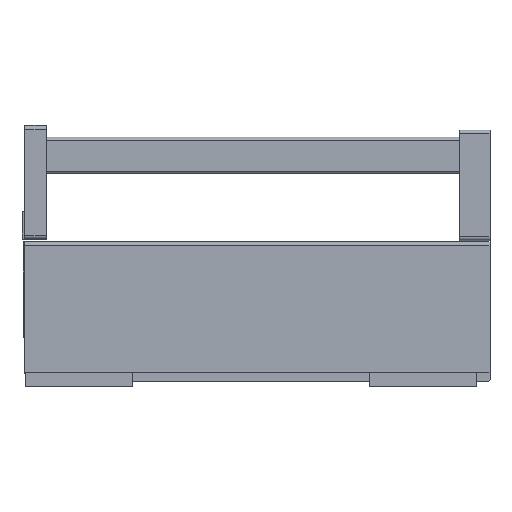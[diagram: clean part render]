
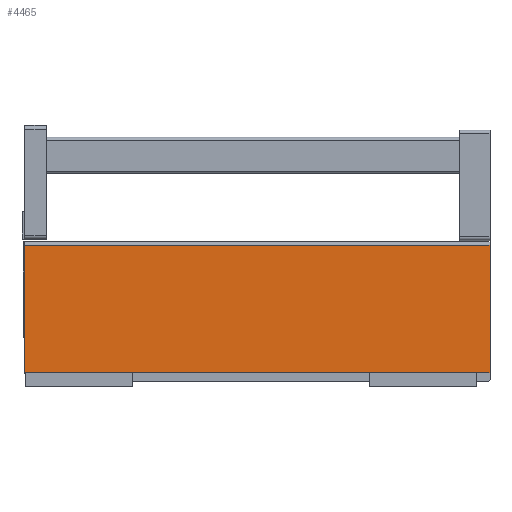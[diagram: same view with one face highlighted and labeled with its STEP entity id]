
A CAD part, left-side view. The second image highlights one B-rep face of the part: STEP entity #4465.
In plain terms, the highlighted planar face has unit normal (-1, 0, 0).
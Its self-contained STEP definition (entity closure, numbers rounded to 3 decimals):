
#201 = EDGE_CURVE ( 'NONE', #4822, #4690, #1325, .T. ) ;
#208 = EDGE_CURVE ( 'NONE', #4856, #4693, #1311, .T. ) ;
#381 = AXIS2_PLACEMENT_3D ( 'NONE', #3533, #3542, #3543 ) ;
#540 = EDGE_CURVE ( 'NONE', #4822, #4856, #836, .T. ) ;
#671 = EDGE_CURVE ( 'NONE', #4690, #4693, #4968, .T. ) ;
#836 = LINE ( 'NONE', #2592, #840 ) ;
#840 = VECTOR ( 'NONE', #2593, 1000. ) ;
#1082 = ORIENTED_EDGE ( 'NONE', *, *, #208, .T. ) ;
#1222 = ORIENTED_EDGE ( 'NONE', *, *, #540, .T. ) ;
#1301 = ORIENTED_EDGE ( 'NONE', *, *, #201, .F. ) ;
#1307 = VECTOR ( 'NONE', #4898, 1000. ) ;
#1311 = LINE ( 'NONE', #4713, #1307 ) ;
#1320 = VECTOR ( 'NONE', #4877, 1000. ) ;
#1325 = LINE ( 'NONE', #4949, #1320 ) ;
#1354 = ORIENTED_EDGE ( 'NONE', *, *, #671, .F. ) ;
#1451 = EDGE_LOOP ( 'NONE', ( #1354, #1301, #1222, #1082 ) ) ;
#2592 = CARTESIAN_POINT ( 'NONE',  ( -4.1, 390., 64.411 ) ) ;
#2593 = DIRECTION ( 'NONE',  ( 0., 0., -1. ) ) ;
#2808 = CARTESIAN_POINT ( 'NONE',  ( -4.1, 0., -28.503 ) ) ;
#2809 = DIRECTION ( 'NONE',  ( 0., 0., -1. ) ) ;
#3526 = PLANE ( 'NONE',  #381 ) ;
#3533 = CARTESIAN_POINT ( 'NONE',  ( -4.1, 390., -28.503 ) ) ;
#3542 = DIRECTION ( 'NONE',  ( 1., 0., 0. ) ) ;
#3543 = DIRECTION ( 'NONE',  ( 0., 0., -1. ) ) ;
#3836 = FACE_OUTER_BOUND ( 'NONE', #1451, .T. ) ;
#4187 = CARTESIAN_POINT ( 'NONE',  ( -4.1, 0., 78.498 ) ) ;
#4190 = CARTESIAN_POINT ( 'NONE',  ( -4.1, 0., -28.503 ) ) ;
#4272 = CARTESIAN_POINT ( 'NONE',  ( -4.1, 390., 78.498 ) ) ;
#4301 = CARTESIAN_POINT ( 'NONE',  ( -4.1, 390., -28.503 ) ) ;
#4465 = ADVANCED_FACE ( 'NONE', ( #3836 ), #3526, .F. ) ;
#4690 = VERTEX_POINT ( 'NONE', #4187 ) ;
#4693 = VERTEX_POINT ( 'NONE', #4190 ) ;
#4713 = CARTESIAN_POINT ( 'NONE',  ( -4.1, 390., -28.503 ) ) ;
#4822 = VERTEX_POINT ( 'NONE', #4272 ) ;
#4856 = VERTEX_POINT ( 'NONE', #4301 ) ;
#4877 = DIRECTION ( 'NONE',  ( 0., -1., 0. ) ) ;
#4898 = DIRECTION ( 'NONE',  ( 0., -1., 0. ) ) ;
#4949 = CARTESIAN_POINT ( 'NONE',  ( -4.1, 390., 78.498 ) ) ;
#4967 = VECTOR ( 'NONE', #2809, 1000. ) ;
#4968 = LINE ( 'NONE', #2808, #4967 ) ;
